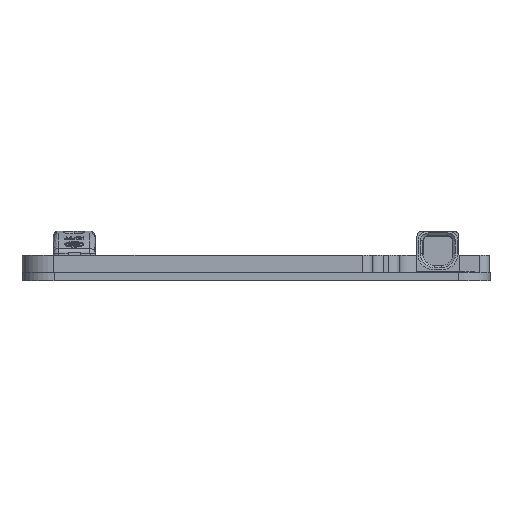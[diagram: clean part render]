
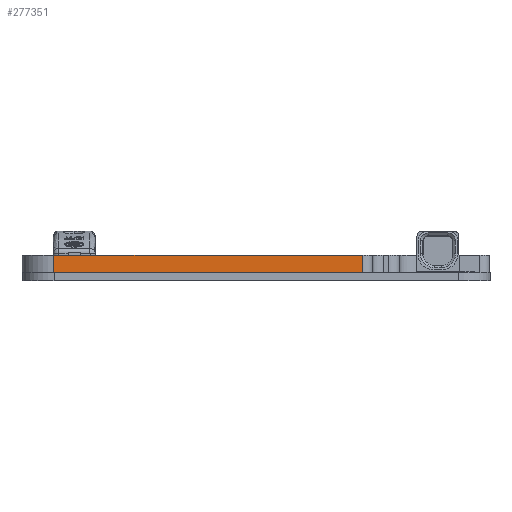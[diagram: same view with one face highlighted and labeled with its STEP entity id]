
A CAD part, left-side view. The second image highlights one B-rep face of the part: STEP entity #277351.
In plain terms, the highlighted planar face has unit normal (-1, 0, 0).
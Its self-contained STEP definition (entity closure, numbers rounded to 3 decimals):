
#265011=CARTESIAN_POINT(' ',(-56.986,19.011,1.6));
#265012=VERTEX_POINT(' ',#265011);
#265026=CARTESIAN_POINT(' ',(-56.986,19.011,1.6));
#265031=DIRECTION(' ',(0.,-1.,0.));
#265036=VECTOR(' ',#265031,1.);
#265041=LINE('',#265026,#265036);
#265046=CARTESIAN_POINT(' ',(-56.986,-9.989,1.6));
#265047=VERTEX_POINT(' ',#265046);
#265051=EDGE_CURVE(' ',#265012,#265047,#265041,.T.);
#277061=CARTESIAN_POINT(' ',(-56.986,19.011,0.));
#277062=VERTEX_POINT(' ',#277061);
#277076=CARTESIAN_POINT(' ',(-56.986,19.011,1.6));
#277081=DIRECTION(' ',(0.,0.,-1.));
#277086=VECTOR(' ',#277081,1.);
#277091=LINE('',#277076,#277086);
#277096=EDGE_CURVE(' ',#265012,#277062,#277091,.T.);
#277241=DIRECTION(' ',(-1.,-0.,-0.));
#277246=CARTESIAN_POINT(' ',(-56.986,-9.989,1.6));
#277251=DIRECTION(' ',(-0.,1.,0.));
#277256=AXIS2_PLACEMENT_3D(' ',#277246,#277241,#277251);
#277261=PLANE('',#277256);
#277266=CARTESIAN_POINT(' ',(-56.986,19.011,0.));
#277271=DIRECTION(' ',(0.,-1.,0.));
#277276=VECTOR(' ',#277271,1.);
#277281=LINE('',#277266,#277276);
#277286=CARTESIAN_POINT(' ',(-56.986,-9.989,0.));
#277287=VERTEX_POINT(' ',#277286);
#277291=EDGE_CURVE(' ',#277062,#277287,#277281,.T.);
#277296=ORIENTED_EDGE(' ',*,*,#277291,.T.);
#277301=CARTESIAN_POINT(' ',(-56.986,-9.989,1.6));
#277306=DIRECTION(' ',(0.,0.,-1.));
#277311=VECTOR(' ',#277306,1.);
#277316=LINE('',#277301,#277311);
#277321=EDGE_CURVE(' ',#265047,#277287,#277316,.T.);
#277326=ORIENTED_EDGE(' ',*,*,#277321,.F.);
#277331=ORIENTED_EDGE(' ',*,*,#265051,.F.);
#277336=ORIENTED_EDGE(' ',*,*,#277096,.T.);
#277341=EDGE_LOOP(' ',(#277296,#277326,#277331,#277336));
#277346=FACE_OUTER_BOUND(' ',#277341,.T.);
#277351=ADVANCED_FACE('',(#277346),#277261,.T.);
